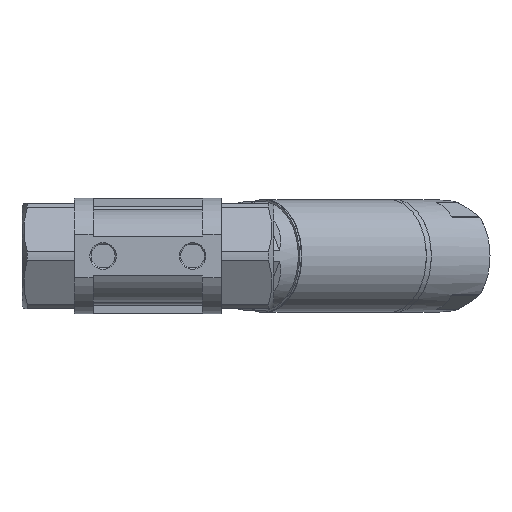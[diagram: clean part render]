
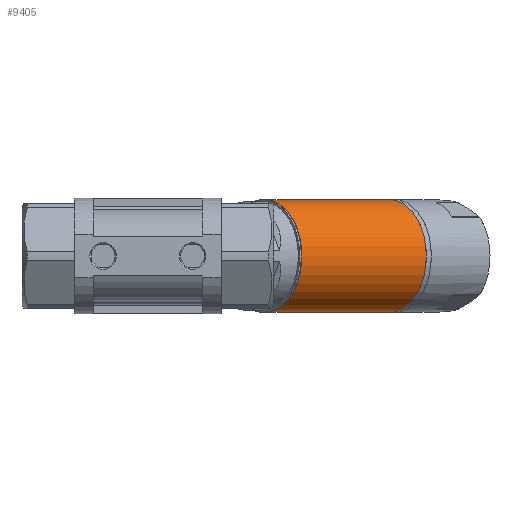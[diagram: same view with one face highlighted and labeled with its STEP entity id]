
A CAD part, front view. The second image highlights one B-rep face of the part: STEP entity #9405.
In plain terms, the highlighted cylindrical face has radius 17 mm (diameter 34 mm), a partial arc.
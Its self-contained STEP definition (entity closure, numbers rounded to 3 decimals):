
#109 = DIRECTION ( 'NONE',  ( 0., 1., 0. ) ) ;
#126 = EDGE_CURVE ( 'NONE', #9432, #4024, #5496, .T. ) ;
#480 = DIRECTION ( 'NONE',  ( 0., 1., 0. ) ) ;
#1034 = EDGE_CURVE ( 'NONE', #9135, #9432, #3276, .T. ) ;
#1182 = CARTESIAN_POINT ( 'NONE',  ( 0., 19.4, -17. ) ) ;
#1326 = ORIENTED_EDGE ( 'NONE', *, *, #9582, .T. ) ;
#2332 = LINE ( 'NONE', #5346, #5730 ) ;
#2531 = CARTESIAN_POINT ( 'NONE',  ( 0., 0., 0. ) ) ;
#2997 = CARTESIAN_POINT ( 'NONE',  ( 0., 69.16, 0. ) ) ;
#3193 = EDGE_CURVE ( 'NONE', #9674, #4024, #2332, .T. ) ;
#3222 = FACE_OUTER_BOUND ( 'NONE', #4499, .T. ) ;
#3276 = LINE ( 'NONE', #9263, #9316 ) ;
#3545 = DIRECTION ( 'NONE',  ( 0., 0., 1. ) ) ;
#3698 = CARTESIAN_POINT ( 'NONE',  ( 0., 19.4, 17. ) ) ;
#4024 = VERTEX_POINT ( 'NONE', #5484 ) ;
#4499 = EDGE_LOOP ( 'NONE', ( #1326, #4636, #7015, #6155 ) ) ;
#4572 = DIRECTION ( 'NONE',  ( 0., 1., 0. ) ) ;
#4636 = ORIENTED_EDGE ( 'NONE', *, *, #3193, .T. ) ;
#5346 = CARTESIAN_POINT ( 'NONE',  ( 0., 0., -17. ) ) ;
#5484 = CARTESIAN_POINT ( 'NONE',  ( 0., 69.16, -17. ) ) ;
#5496 = CIRCLE ( 'NONE', #9128, 17. ) ;
#5540 = CARTESIAN_POINT ( 'NONE',  ( 0., 69.16, 17. ) ) ;
#5630 = CYLINDRICAL_SURFACE ( 'NONE', #7057, 17. ) ;
#5730 = VECTOR ( 'NONE', #109, 1000. ) ;
#6155 = ORIENTED_EDGE ( 'NONE', *, *, #1034, .F. ) ;
#6395 = DIRECTION ( 'NONE',  ( 0., 1., 0. ) ) ;
#7015 = ORIENTED_EDGE ( 'NONE', *, *, #126, .F. ) ;
#7046 = DIRECTION ( 'NONE',  ( 0., 1., 0. ) ) ;
#7057 = AXIS2_PLACEMENT_3D ( 'NONE', #2531, #6395, #7821 ) ;
#7821 = DIRECTION ( 'NONE',  ( 0., 0., 1. ) ) ;
#7978 = AXIS2_PLACEMENT_3D ( 'NONE', #8828, #480, #3545 ) ;
#8133 = CIRCLE ( 'NONE', #7978, 17. ) ;
#8828 = CARTESIAN_POINT ( 'NONE',  ( 0., 19.4, 0. ) ) ;
#9018 = DIRECTION ( 'NONE',  ( 0., 0., 1. ) ) ;
#9128 = AXIS2_PLACEMENT_3D ( 'NONE', #2997, #4572, #9018 ) ;
#9135 = VERTEX_POINT ( 'NONE', #3698 ) ;
#9263 = CARTESIAN_POINT ( 'NONE',  ( 0., 0., 17. ) ) ;
#9316 = VECTOR ( 'NONE', #7046, 1000. ) ;
#9405 = ADVANCED_FACE ( 'NONE', ( #3222 ), #5630, .T. ) ;
#9432 = VERTEX_POINT ( 'NONE', #5540 ) ;
#9582 = EDGE_CURVE ( 'NONE', #9135, #9674, #8133, .T. ) ;
#9674 = VERTEX_POINT ( 'NONE', #1182 ) ;
